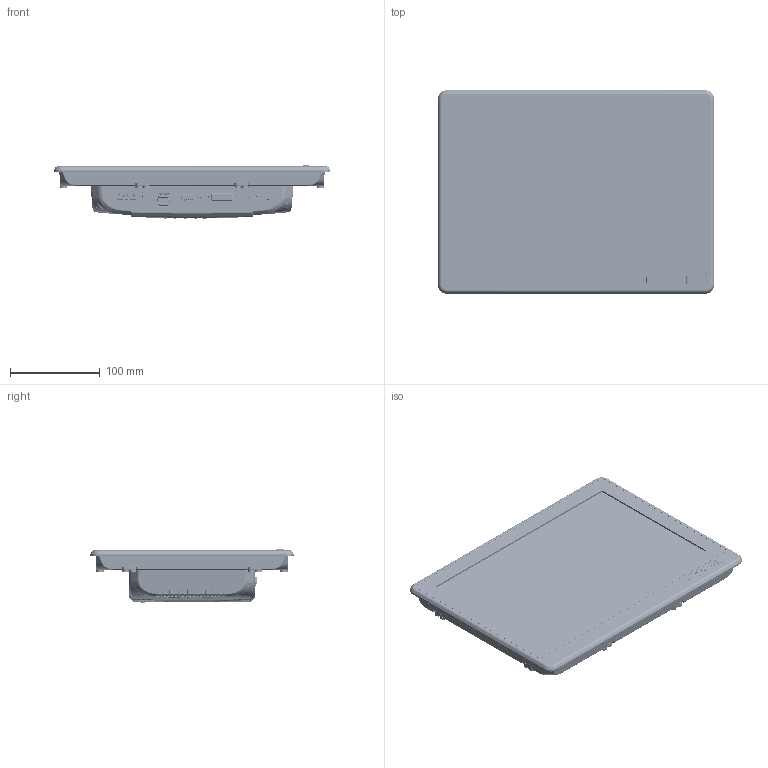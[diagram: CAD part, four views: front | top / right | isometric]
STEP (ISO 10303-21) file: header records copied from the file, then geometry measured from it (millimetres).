
FILE_DESCRIPTION (( 'STEP AP214' ), '1' );
FILE_NAME ('IDD22122.STEP', '2024-05-10T03:04:48', ( '' ), ( '' ), 'SwSTEP 2.0', 'SolidWorks 2018', '' );
FILE_SCHEMA (( 'AUTOMOTIVE_DESIGN' ));
Length unit declared in the file: millimetre
Products named in the file (1): IDD22122
Bounding box: 308.3 x 226.8 x 59.1 mm (x, y, z)
Volume: 949441.4 mm3; surface area: 664227.7 mm2
Topology: 126 solids, 126 shells, 11712 faces, 29188 edges, 17518 vertices
Faces by surface type: plane 4880, cylinder 3330, bspline 2097, torus 869, sphere 324, cone 212
Entity records: 540990 total; most frequent: CARTESIAN_POINT 147151, ORIENTED_EDGE 57426, DIRECTION 51322, EDGE_CURVE 28713, AXIS2_PLACEMENT_3D 17684, VERTEX_POINT 17518, LINE 15954, VECTOR 15954
